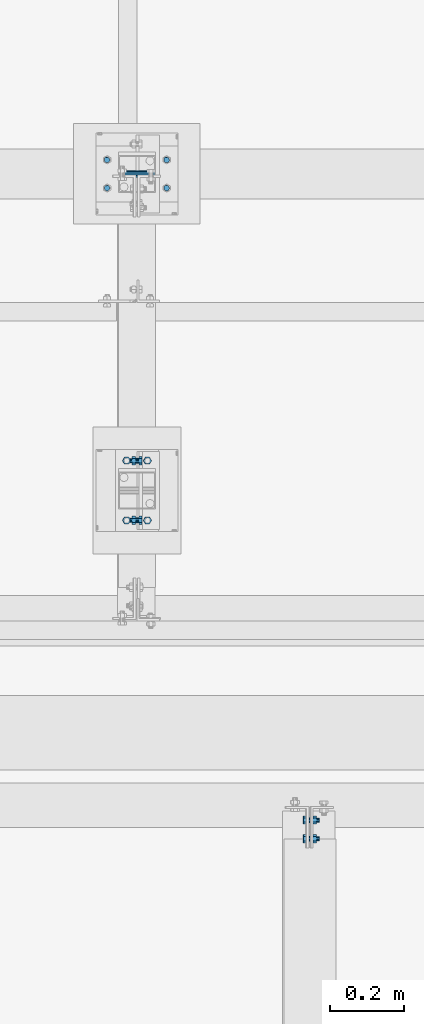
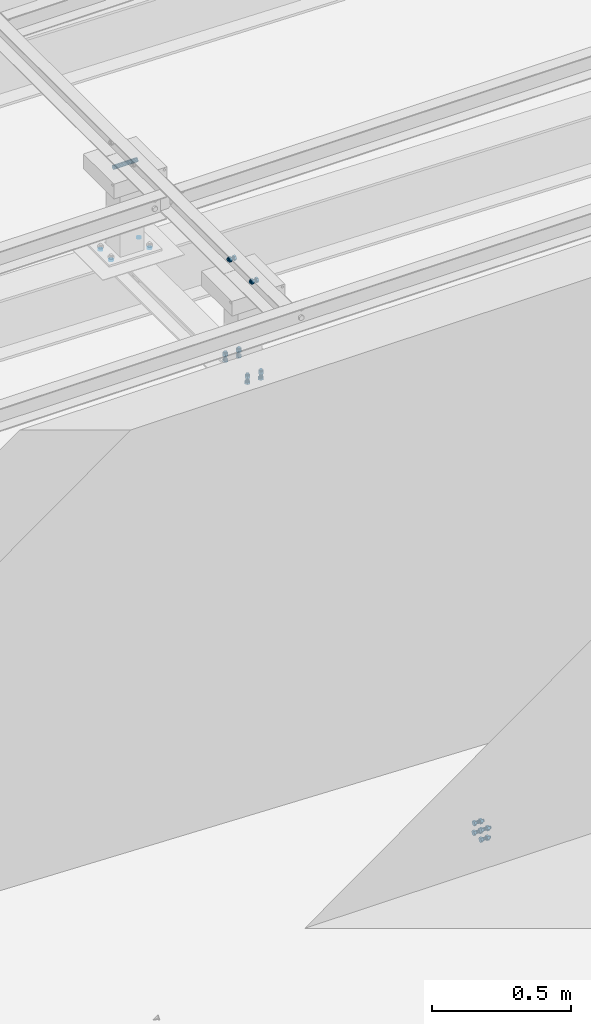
# One storey, part 391 of 3134: 5 mechanical fasteners, 5 elements without a shape of their own.
"""IFC2X3 building model written with IfcOpenShell, lengths in millimetres."""

import ifcopenshell
import ifcopenshell.guid

model = None  # the IFC model being written
_history = None  # IfcOwnerHistory: only IFC2X3 demands one
_inside = {}  # id of a spatial element -> (the spatial element, [elements in it])
_under = {}  # id of a project, library or spatial element -> (it, [spatial elements below it])
_declared = {}  # id of a project -> (the project, [libraries it declares])
_typed = {}  # id of a type object -> (the type object, [elements of that type])
_made_of = {}  # id of a material, layer set ... -> (it, [elements and type objects made of it])


def new_model(schema):
    """Start an empty IFC model of exactly this schema.

    Asked for "IFC4X3", IfcOpenShell would pick the latest addendum, in which some entities
    have other attributes; the version numbers below select the first issue.
    IFC2X3 requires an IfcOwnerHistory on every rooted entity: one is made here for all.
    """
    global model, _history
    if schema == "IFC4X3":
        model = ifcopenshell.file(schema_version=(4, 3, 0, 0))
    else:
        model = ifcopenshell.file(schema=schema)
    _inside.clear()
    _under.clear()
    _declared.clear()
    _typed.clear()
    _made_of.clear()
    _history = None
    if model.schema == "IFC2X3":
        org = make("IfcOrganization", Name="unknown")
        user = make(
            "IfcPersonAndOrganization",
            ThePerson=make("IfcPerson", FamilyName="unknown"),
            TheOrganization=org,
        )
        app = make(
            "IfcApplication",
            ApplicationDeveloper=org,
            Version="unknown",
            ApplicationFullName="unknown",
            ApplicationIdentifier="unknown",
        )
        _history = make(
            "IfcOwnerHistory",
            OwningUser=user,
            OwningApplication=app,
            ChangeAction="ADDED",
            CreationDate=0,
        )
    return model


def make(cls, **values):
    """One entity of the class cls with the attributes given. An attribute that is None is left unset."""
    return model.create_entity(
        cls, **{name: value for name, value in values.items() if value is not None}
    )


def rooted(cls, **values):
    """An entity with a GlobalId (a new one), such as an element, a storey or a relation."""
    return make(cls, GlobalId=ifcopenshell.guid.new(), OwnerHistory=_history, **values)


def si_unit(unit_type, name, prefix=None):
    """IfcSIUnit, for example si_unit("LENGTHUNIT", "METRE", prefix="MILLI")."""
    return make("IfcSIUnit", UnitType=unit_type, Prefix=prefix, Name=name)


def assignment(units):
    """IfcUnitAssignment: the units of a project."""
    return None if units is None else make("IfcUnitAssignment", Units=units)


def point(xyz):
    """IfcCartesianPoint."""
    return None if xyz is None else make("IfcCartesianPoint", Coordinates=xyz)


def direction(xyz):
    """IfcDirection."""
    return None if xyz is None else make("IfcDirection", DirectionRatios=xyz)


def frame(location, z_axis=None, x_axis=None):
    """IfcAxis2Placement3D, a coordinate frame: its origin and axes. An axis left out is left unset."""
    return make(
        "IfcAxis2Placement3D",
        Location=point(location),
        Axis=direction(z_axis),
        RefDirection=direction(x_axis),
    )


def origin_with_axes():
    """The frame at (0, 0, 0) with the z axis (0, 0, 1) and the x axis (1, 0, 0) written out."""
    return frame((0.0, 0.0, 0.0), z_axis=(0.0, 0.0, 1.0), x_axis=(1.0, 0.0, 0.0))


def place(relative_to, where):
    """IfcLocalPlacement: puts the frame where relative to a parent placement (None: the world)."""
    return make(
        "IfcLocalPlacement", PlacementRelTo=relative_to, RelativePlacement=where
    )


def context(
    kind, dimensions, precision=None, world=None, true_north=None, identifier=None
):
    """IfcGeometricRepresentationContext, for example the 3D "Model" context."""
    return make(
        "IfcGeometricRepresentationContext",
        ContextIdentifier=identifier,
        ContextType=kind,
        CoordinateSpaceDimension=dimensions,
        Precision=precision,
        WorldCoordinateSystem=world,
        TrueNorth=true_north,
    )


def subcontext(parent, identifier, kind, view, scale=None):
    """IfcGeometricRepresentationSubContext, for example "Body" below "Model"."""
    return make(
        "IfcGeometricRepresentationSubContext",
        ContextIdentifier=identifier,
        ContextType=kind,
        ParentContext=parent,
        TargetScale=scale,
        TargetView=view,
    )


def project(units=None, contexts=None):
    """IfcProject with its units and contexts."""
    return rooted(
        "IfcProject",
        Name="project",
        RepresentationContexts=contexts,
        UnitsInContext=assignment(units),
    )


def spatial(cls, under=None, at=None, **own):
    """A site, building, storey or space (cls), placed at a placement, below another one or the project."""
    s = rooted(cls, ObjectPlacement=at, **own)
    if under is not None:
        _under.setdefault(under.id(), (under, []))[1].append(s)
    return s


def faces_of(points, faces, orient=None, outer=None):
    """IfcFace entities. A face is a list of loops; a loop is a list of indices into points, from 0.

    orient and outer hold one flag for each loop. By default every Orientation is true, the
    first loop of a face is its IfcFaceOuterBound and the others are IfcFaceBound.
    """
    made = []
    for i, loops in enumerate(faces):
        bounds = []
        for j, loop in enumerate(loops):
            is_outer = j == 0 if outer is None else outer[i][j]
            bounds.append(
                make(
                    "IfcFaceOuterBound" if is_outer else "IfcFaceBound",
                    Bound=make("IfcPolyLoop", Polygon=[points[k] for k in loop]),
                    Orientation=True if orient is None else orient[i][j],
                )
            )
        made.append(make("IfcFace", Bounds=bounds))
    return made


def faceted_brep(points, faces, orient=None, outer=None, voids=None):
    """IfcFacetedBrep: a solid bounded by flat faces; with voids (closed shells), ...WithVoids."""
    shared = [point(p) for p in points]
    hull = make("IfcClosedShell", CfsFaces=faces_of(shared, faces, orient, outer))
    if voids is None:
        return make("IfcFacetedBrep", Outer=hull)
    return make(
        "IfcFacetedBrepWithVoids",
        Outer=hull,
        Voids=[
            make(cls, CfsFaces=faces_of(shared, fs, o, b)) for cls, fs, o, b in voids
        ],
    )


def shape(context_of_items, identifier, shape_type, items):
    """IfcShapeRepresentation: the items that make up one representation, for example the "Body"."""
    return make(
        "IfcShapeRepresentation",
        ContextOfItems=context_of_items,
        RepresentationIdentifier=identifier,
        RepresentationType=shape_type,
        Items=items,
    )


def source(mapping_origin, context_of_items, identifier, shape_type, items):
    """IfcRepresentationMap: a shape defined once, which mapped items show again and again."""
    return make(
        "IfcRepresentationMap",
        MappingOrigin=mapping_origin,
        MappedRepresentation=shape(context_of_items, identifier, shape_type, items),
    )


def transform(
    local_origin,
    x_axis=None,
    y_axis=None,
    z_axis=None,
    scale=None,
    scale2=None,
    scale3=None,
    uniform=True,
):
    """IfcCartesianTransformationOperator3D, or its non-uniform kind. x_axis, y_axis, z_axis: its Axis1, 2, 3."""
    if uniform:
        return make(
            "IfcCartesianTransformationOperator3D",
            Axis1=direction(x_axis),
            Axis2=direction(y_axis),
            LocalOrigin=point(local_origin),
            Scale=scale,
            Axis3=direction(z_axis),
        )
    return make(
        "IfcCartesianTransformationOperator3DnonUniform",
        Axis1=direction(x_axis),
        Axis2=direction(y_axis),
        LocalOrigin=point(local_origin),
        Scale=scale,
        Axis3=direction(z_axis),
        Scale2=scale2,
        Scale3=scale3,
    )


def mapped(mapping_source, mapping_target):
    """IfcMappedItem: shows the shape of a source again, moved by a transform."""
    return make(
        "IfcMappedItem", MappingSource=mapping_source, MappingTarget=mapping_target
    )


def material(Name=None, Category=None):
    """IfcMaterial."""
    return make("IfcMaterial", Name=Name, Category=Category)


def made_of(thing, what):
    """Note that an element or type object is made of a material, layer set ...; save() writes the relation."""
    if what is not None:
        _made_of.setdefault(what.id(), (what, []))[1].append(thing)
    return thing


def type_object(cls, material=None, **own):
    """A type object (cls), such as IfcWallType, which elements share."""
    return made_of(rooted(cls, **own), material)


def element(
    cls,
    number,
    at=None,
    inside=None,
    cuts=None,
    type_object=None,
    material=None,
    context=None,
    identifier="Body",
    shape_type=None,
    held_by="IfcProductDefinitionShape",
    body=None,
    shapes=None,
    **own,
):
    """One element of the class cls, such as IfcWall. Its Tag is "e" and its number.

    at: its placement. inside: the storey or other place that contains it. cuts: it is an
    opening in that element (IfcRelVoidsElement). A single representation is given by context,
    identifier, shape_type and body (its items); several are given by shapes. held_by: the class
    of the entity that holds the representations. save() writes the other relations.
    """
    e = rooted(cls, Tag="e%d" % number, ObjectPlacement=at, **own)
    if body is not None:
        shapes = [shape(context, identifier, shape_type, body)]
    if shapes is not None:
        e.Representation = make(held_by, Representations=shapes)
    if inside is not None:
        _inside.setdefault(inside.id(), (inside, []))[1].append(e)
    if cuts is not None:
        rooted(
            "IfcRelVoidsElement", RelatingBuildingElement=cuts, RelatedOpeningElement=e
        )
    if type_object is not None:
        _typed.setdefault(type_object.id(), (type_object, []))[1].append(e)
    return made_of(e, material)


def aggregate(whole, parts):
    """IfcRelAggregates: a whole, such as a stair, and the parts it consists of."""
    return rooted("IfcRelAggregates", RelatingObject=whole, RelatedObjects=parts)


def save(model, path):
    """Write the relations noted so far, then the file.

    IfcRelAggregates (storeys below a building ...), IfcRelContainedInSpatialStructure (elements
    in a storey), IfcRelDefinesByType, IfcRelAssociatesMaterial and IfcRelDeclares: one each for
    every whole, place, type object, material and project.
    """
    for whole, parts in _under.values():
        aggregate(whole, parts)
    for where, things in _inside.values():
        rooted(
            "IfcRelContainedInSpatialStructure",
            RelatedElements=things,
            RelatingStructure=where,
        )
    for kind, things in _typed.values():
        rooted("IfcRelDefinesByType", RelatedObjects=things, RelatingType=kind)
    for what, things in _made_of.values():
        rooted("IfcRelAssociatesMaterial", RelatedObjects=things, RelatingMaterial=what)
    for by, libraries in _declared.values():
        rooted("IfcRelDeclares", RelatingContext=by, RelatedDefinitions=libraries)
    model.write(path)


model = new_model("IFC2X3")

# Units and contexts
model_context = context("Model", 3, precision=1e-05, world=origin_with_axes())
body_context = subcontext(model_context, "Body", "Model", "MODEL_VIEW")
ifc_project = project(units=[si_unit("LENGTHUNIT", "METRE", prefix="MILLI"), si_unit("AREAUNIT", "SQUARE_METRE"), si_unit("VOLUMEUNIT", "CUBIC_METRE"), si_unit("MASSUNIT", "GRAM", prefix="KILO"), si_unit("TIMEUNIT", "SECOND"), si_unit("PLANEANGLEUNIT", "RADIAN"), si_unit("SOLIDANGLEUNIT", "STERADIAN"), si_unit("THERMODYNAMICTEMPERATUREUNIT", "DEGREE_CELSIUS"), si_unit("LUMINOUSINTENSITYUNIT", "LUMEN")], contexts=[model_context])

# Site, building, storey
site_placement = place(None, origin_with_axes())
site = spatial("IfcSite", under=ifc_project, at=site_placement, CompositionType="ELEMENT")
building_placement = place(site_placement, origin_with_axes())
building = spatial("IfcBuilding", under=site, at=building_placement, Name="Undefined", CompositionType="ELEMENT")
storey_placement = place(building_placement, origin_with_axes())
storey = spatial("IfcBuildingStorey", under=building, at=storey_placement, Name="Undefined", CompositionType="ELEMENT", Elevation=0.0)

# Assembly, mechanical fastener
assembly_1_placement = place(storey_placement, origin_with_axes())
assembly_1 = element("IfcElementAssembly", 1, at=assembly_1_placement, inside=storey, AssemblyPlace="NOTDEFINED", PredefinedType="RIGID_FRAME")
ifc_material = material(Name="8.8")
mechanical_fastener_type = type_object("IfcMechanicalFastenerType", Name="Bolt assembly")
shared_shape_1 = source(origin_with_axes(), body_context, "Body", "Brep", [
    faceted_brep([(10.9696551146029, -14.0, 0.0), (5.48482755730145, -14.0, 9.5), (-5.48482755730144, -14.0, 9.5), (-10.9696551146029, -14.0, 1.34339530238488e-15), (-5.48482755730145, -14.0, -9.5), (5.48482755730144, -14.0, -9.50000000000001), (5.48482755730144, -6.0, -9.50000000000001), (-5.48482755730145, -6.0, -9.5), (-10.9696551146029, -6.0, 1.34339530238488e-15), (-5.48482755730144, -6.0, 9.5), (5.48482755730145, -6.0, 9.5), (10.9696551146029, -6.0, 0.0), (6.0, -6.0, 0.0), (5.19615242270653, -6.0, 3.00000000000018), (2.99999999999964, -6.0, 5.19615242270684), (-6.21801588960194e-13, -6.0, 6.0), (-3.00000000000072, -6.0, 5.19615242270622), (-5.19615242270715, -6.0, 2.9999999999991), (-6.0, -6.0, -1.24360317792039e-12), (-5.19615242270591, -6.0, -3.00000000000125), (-2.99999999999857, -6.0, -5.19615242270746), (1.85874342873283e-12, -6.0, -6.0), (3.00000000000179, -6.0, -5.1961524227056), (5.19615242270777, -6.0, -2.99999999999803), (5.19615242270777, 19.0, -2.99999999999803), (3.00000000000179, 19.0, -5.1961524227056), (1.85874342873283e-12, 19.0, -6.0), (-2.99999999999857, 19.0, -5.19615242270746), (-5.19615242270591, 19.0, -3.00000000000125), (-6.0, 19.0, -1.24360317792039e-12), (-5.19615242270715, 19.0, 2.9999999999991), (-3.00000000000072, 19.0, 5.19615242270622), (-6.21801588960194e-13, 19.0, 6.0), (2.99999999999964, 19.0, 5.19615242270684), (5.19615242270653, 19.0, 3.00000000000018), (6.0, 19.0, 0.0), (10.9696551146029, 4.00000000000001, 0.0), (5.48482755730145, 4.00000000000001, 9.5), (-5.48482755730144, 4.00000000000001, 9.5), (-10.9696551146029, 4.00000000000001, 1.34339530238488e-15), (-5.48482755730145, 4.00000000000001, -9.5), (5.48482755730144, 4.00000000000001, -9.50000000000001), (5.48482755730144, 14.0, -9.50000000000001), (-5.48482755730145, 14.0, -9.5), (-10.9696551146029, 14.0, 1.34339530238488e-15), (-5.48482755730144, 14.0, 9.5), (5.48482755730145, 14.0, 9.5), (10.9696551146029, 14.0, 0.0)], [[[0, 1, 2, 3, 4, 5]], [[6, 7, 8, 9, 10, 11]], [[0, 11, 10, 1]], [[1, 10, 9, 2]], [[2, 9, 8, 3]], [[3, 8, 7, 4]], [[4, 7, 6, 5]], [[5, 6, 11, 0]], [[12, 13, 14, 15, 16, 17, 18, 19, 20, 21, 22, 23]], [[24, 25, 26, 27, 28, 29, 30, 31, 32, 33, 34, 35]], [[12, 35, 34, 13]], [[13, 34, 33, 14]], [[14, 33, 32, 15]], [[15, 32, 31, 16]], [[16, 31, 30, 17]], [[17, 30, 29, 18]], [[18, 29, 28, 19]], [[19, 28, 27, 20]], [[20, 27, 26, 21]], [[21, 26, 25, 22]], [[22, 25, 24, 23]], [[23, 24, 35, 12]], [[36, 37, 38, 39, 40, 41]], [[42, 43, 44, 45, 46, 47]], [[36, 47, 46, 37]], [[37, 46, 45, 38]], [[38, 45, 44, 39]], [[39, 44, 43, 40]], [[40, 43, 42, 41]], [[41, 42, 47, 36]]]),
    faceted_brep([(7.0, -0.1, 0.0), (6.06217782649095, -0.1, 3.50000000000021), (3.49999999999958, -0.1, 6.06217782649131), (-7.25435187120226e-13, -0.1, 7.0), (-3.50000000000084, -0.1, 6.06217782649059), (-6.06217782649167, -0.1, 3.49999999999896), (-7.0, -0.1, -1.45087037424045e-12), (-6.06217782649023, -0.1, -3.50000000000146), (-3.49999999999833, -0.1, -6.06217782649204), (2.1685340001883e-12, -0.1, -7.0), (3.50000000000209, -0.1, -6.06217782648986), (6.0621778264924, -0.1, -3.4999999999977), (6.0621778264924, 4.00000000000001, -3.4999999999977), (3.50000000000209, 4.00000000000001, -6.06217782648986), (2.1685340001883e-12, 4.00000000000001, -7.0), (-3.49999999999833, 4.00000000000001, -6.06217782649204), (-6.06217782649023, 4.00000000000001, -3.50000000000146), (-7.0, 4.00000000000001, -1.45087037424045e-12), (-6.06217782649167, 4.00000000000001, 3.49999999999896), (-3.50000000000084, 4.00000000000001, 6.06217782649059), (-7.25435187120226e-13, 4.00000000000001, 7.0), (3.49999999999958, 4.00000000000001, 6.06217782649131), (6.06217782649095, 4.00000000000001, 3.50000000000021), (7.0, 4.00000000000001, 0.0), (7.0, -5.9, 0.0), (6.06217782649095, -5.9, 3.50000000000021), (3.49999999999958, -5.9, 6.06217782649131), (-7.25435187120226e-13, -5.9, 7.0), (-3.50000000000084, -5.9, 6.06217782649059), (-6.06217782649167, -5.9, 3.49999999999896), (-7.0, -5.9, -1.45087037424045e-12), (-6.06217782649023, -5.9, -3.50000000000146), (-3.49999999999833, -5.9, -6.06217782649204), (2.1685340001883e-12, -5.9, -7.0), (3.50000000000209, -5.9, -6.06217782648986), (6.0621778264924, -5.9, -3.4999999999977), (6.0621778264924, 0.0999999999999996, -3.4999999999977), (3.50000000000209, 0.0999999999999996, -6.06217782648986), (2.1685340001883e-12, 0.0999999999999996, -7.0), (-3.49999999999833, 0.0999999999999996, -6.06217782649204), (-6.06217782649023, 0.0999999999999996, -3.50000000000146), (-7.0, 0.0999999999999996, -1.45087037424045e-12), (-6.06217782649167, 0.0999999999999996, 3.49999999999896), (-3.50000000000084, 0.0999999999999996, 6.06217782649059), (-7.25435187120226e-13, 0.0999999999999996, 7.0), (3.49999999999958, 0.0999999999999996, 6.06217782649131), (6.06217782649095, 0.0999999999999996, 3.50000000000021), (7.0, 0.0999999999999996, 0.0)], [[[0, 1, 2, 3, 4, 5, 6, 7, 8, 9, 10, 11]], [[12, 13, 14, 15, 16, 17, 18, 19, 20, 21, 22, 23]], [[0, 23, 22, 1]], [[1, 22, 21, 2]], [[2, 21, 20, 3]], [[3, 20, 19, 4]], [[4, 19, 18, 5]], [[5, 18, 17, 6]], [[6, 17, 16, 7]], [[7, 16, 15, 8]], [[8, 15, 14, 9]], [[9, 14, 13, 10]], [[10, 13, 12, 11]], [[11, 12, 23, 0]], [[24, 25, 26, 27, 28, 29, 30, 31, 32, 33, 34, 35]], [[36, 37, 38, 39, 40, 41, 42, 43, 44, 45, 46, 47]], [[24, 47, 46, 25]], [[25, 46, 45, 26]], [[26, 45, 44, 27]], [[27, 44, 43, 28]], [[28, 43, 42, 29]], [[29, 42, 41, 30]], [[30, 41, 40, 31]], [[31, 40, 39, 32]], [[32, 39, 38, 33]], [[33, 38, 37, 34]], [[34, 37, 36, 35]], [[35, 36, 47, 24]]]),
])
mechanical_fastener_1_placement = place(assembly_1_placement, frame((75358.73, 26815.0, 5885.0), z_axis=(0.0, 0.0, 1.0), x_axis=(0.0, 1.0, 0.0)))
mechanical_fastener_1 = element("IfcMechanicalFastener", 2, at=mechanical_fastener_1_placement, type_object=mechanical_fastener_type, material=ifc_material, Name="Bolt assembly", NominalDiameter=12.0, NominalLength=25.0, context=body_context, shape_type="MappedRepresentation", body=[
    mapped(shared_shape_1, transform((0.0, 0.0, 0.0))),
    mapped(shared_shape_1, transform((160.0, 0.0, 0.0))),
])
aggregate(assembly_1, [mechanical_fastener_1])

assembly_2_placement = place(storey_placement, origin_with_axes())
assembly_2 = element("IfcElementAssembly", 3, at=assembly_2_placement, inside=storey, AssemblyPlace="NOTDEFINED", PredefinedType="RIGID_FRAME")
shared_shape_2 = source(origin_with_axes(), body_context, "Body", "Brep", [
    faceted_brep([(7.0, 13.0000253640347, 0.0), (6.06217782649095, 13.0000253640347, 3.50000000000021), (3.49999999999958, 13.0000253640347, 6.06217782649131), (-7.25435187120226e-13, 13.0000253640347, 7.0), (-3.50000000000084, 13.0000253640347, 6.06217782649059), (-6.06217782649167, 13.0000253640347, 3.49999999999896), (-7.0, 13.0000253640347, -1.45087037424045e-12), (-6.06217782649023, 13.0000253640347, -3.50000000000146), (-3.49999999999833, 13.0000253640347, -6.06217782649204), (2.1685340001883e-12, 13.0000253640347, -7.0), (3.50000000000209, 13.0000253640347, -6.06217782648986), (6.0621778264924, 13.0000253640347, -3.4999999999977), (6.0621778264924, 15.0999999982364, -3.4999999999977), (3.50000000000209, 15.0999999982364, -6.06217782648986), (2.1685340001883e-12, 15.0999999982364, -7.0), (-3.49999999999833, 15.0999999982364, -6.06217782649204), (-6.06217782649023, 15.0999999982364, -3.50000000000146), (-7.0, 15.0999999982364, -1.45087037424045e-12), (-6.06217782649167, 15.0999999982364, 3.49999999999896), (-3.50000000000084, 15.0999999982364, 6.06217782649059), (-7.25435187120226e-13, 15.0999999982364, 7.0), (3.49999999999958, 15.0999999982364, 6.06217782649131), (6.06217782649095, 15.0999999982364, 3.50000000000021), (7.0, 15.0999999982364, 0.0)], [[[0, 1, 2, 3, 4, 5, 6, 7, 8, 9, 10, 11]], [[12, 13, 14, 15, 16, 17, 18, 19, 20, 21, 22, 23]], [[0, 23, 22, 1]], [[1, 22, 21, 2]], [[2, 21, 20, 3]], [[3, 20, 19, 4]], [[4, 19, 18, 5]], [[5, 18, 17, 6]], [[6, 17, 16, 7]], [[7, 16, 15, 8]], [[8, 15, 14, 9]], [[9, 14, 13, 10]], [[10, 13, 12, 11]], [[11, 12, 23, 0]]]),
])
mechanical_fastener_2_placement = place(assembly_2_placement, frame((75358.2680906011, 27783.0, 5446.97064104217), z_axis=(-0.999799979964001, 0.0, 0.0200000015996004), x_axis=(0.0, -1.0, 0.0)))
mechanical_fastener_2 = element("IfcMechanicalFastener", 4, at=mechanical_fastener_2_placement, type_object=mechanical_fastener_type, material=ifc_material, Name="Bolt assembly", NominalDiameter=12.0, NominalLength=2.0, context=body_context, shape_type="MappedRepresentation", body=[
    mapped(shared_shape_2, transform((0.0, -5.32963895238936e-10, -79.9999999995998))),
    mapped(shared_shape_2, transform((76.0, -5.32963895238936e-10, -79.9999999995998))),
    mapped(shared_shape_2, transform((0.0, 5.3114490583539e-10, 79.9999999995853))),
    mapped(shared_shape_2, transform((76.0, 5.3114490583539e-10, 79.9999999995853))),
])
aggregate(assembly_2, [mechanical_fastener_2])

assembly_3_placement = place(storey_placement, origin_with_axes())
assembly_3 = element("IfcElementAssembly", 5, at=assembly_3_placement, inside=storey, AssemblyPlace="NOTDEFINED", PredefinedType="RIGID_FRAME")
shared_shape_3 = source(origin_with_axes(), body_context, "Body", "Brep", [
    faceted_brep([(9.0, -50.0, 0.0), (7.79422863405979, -50.0, 4.50000000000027), (4.49999999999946, -50.0, 7.79422863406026), (-9.3270238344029e-13, -50.0, 9.0), (-4.50000000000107, -50.0, 7.79422863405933), (-7.79422863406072, -50.0, 4.49999999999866), (-9.0, -50.0, -1.86540476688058e-12), (-7.79422863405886, -50.0, -4.50000000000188), (-4.49999999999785, -50.0, -7.79422863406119), (2.78811514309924e-12, -50.0, -9.0), (4.50000000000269, -50.0, -7.7942286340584), (7.79422863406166, -50.0, -4.49999999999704), (7.79422863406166, 50.1, -4.49999999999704), (4.50000000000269, 50.1, -7.7942286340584), (2.78811514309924e-12, 50.1, -9.0), (-4.49999999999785, 50.1, -7.79422863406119), (-7.79422863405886, 50.1, -4.50000000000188), (-9.0, 50.1, -1.86540476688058e-12), (-7.79422863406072, 50.1, 4.49999999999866), (-4.50000000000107, 50.1, 7.79422863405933), (-9.3270238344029e-13, 50.1, 9.0), (4.49999999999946, 50.1, 7.79422863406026), (7.79422863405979, 50.1, 4.50000000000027), (9.0, 50.1, 0.0)], [[[0, 1, 2, 3, 4, 5, 6, 7, 8, 9, 10, 11]], [[12, 13, 14, 15, 16, 17, 18, 19, 20, 21, 22, 23]], [[0, 23, 22, 1]], [[1, 22, 21, 2]], [[2, 21, 20, 3]], [[3, 20, 19, 4]], [[4, 19, 18, 5]], [[5, 18, 17, 6]], [[6, 17, 16, 7]], [[7, 16, 15, 8]], [[8, 15, 14, 9]], [[9, 14, 13, 10]], [[10, 13, 12, 11]], [[11, 12, 23, 0]]]),
])
mechanical_fastener_3_placement = place(assembly_3_placement, frame((75358.73, 27745.0, 5836.0), z_axis=(0.0, 1.0, 0.0), x_axis=(0.0, 0.0, 1.0)))
mechanical_fastener_3 = element("IfcMechanicalFastener", 6, at=mechanical_fastener_3_placement, type_object=mechanical_fastener_type, material=ifc_material, Name="Bolt assembly", NominalDiameter=16.0, NominalLength=100.0, context=body_context, shape_type="MappedRepresentation", body=[
    mapped(shared_shape_3, transform((0.0, 0.0, 0.0))),
])
aggregate(assembly_3, [mechanical_fastener_3])

assembly_4_placement = place(storey_placement, origin_with_axes())
assembly_4 = element("IfcElementAssembly", 7, at=assembly_4_placement, inside=storey, AssemblyPlace="NOTDEFINED", PredefinedType="RIGID_FRAME")
shared_shape_4 = source(origin_with_axes(), body_context, "Body", "Brep", [
    faceted_brep([(10.9696551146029, -19.2575524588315, 0.0), (5.48482755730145, -19.2575524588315, 9.5), (-5.48482755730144, -19.2575524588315, 9.5), (-10.9696551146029, -19.2575524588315, 1.34339530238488e-15), (-5.48482755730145, -19.2575524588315, -9.5), (5.48482755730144, -19.2575524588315, -9.50000000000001), (5.48482755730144, -11.2575524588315, -9.50000000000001), (-5.48482755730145, -11.2575524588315, -9.5), (-10.9696551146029, -11.2575524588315, 1.34339530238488e-15), (-5.48482755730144, -11.2575524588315, 9.5), (5.48482755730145, -11.2575524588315, 9.5), (10.9696551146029, -11.2575524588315, 0.0), (6.0, -11.2575524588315, 0.0), (5.19615242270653, -11.2575524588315, 3.00000000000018), (2.99999999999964, -11.2575524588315, 5.19615242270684), (-6.21801588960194e-13, -11.2575524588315, 6.0), (-3.00000000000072, -11.2575524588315, 5.19615242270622), (-5.19615242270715, -11.2575524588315, 2.9999999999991), (-6.0, -11.2575524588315, -1.24360317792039e-12), (-5.19615242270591, -11.2575524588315, -3.00000000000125), (-2.99999999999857, -11.2575524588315, -5.19615242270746), (1.85874342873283e-12, -11.2575524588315, -6.0), (3.00000000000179, -11.2575524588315, -5.1961524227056), (5.19615242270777, -11.2575524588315, -2.99999999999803), (5.19615242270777, 23.7424475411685, -2.99999999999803), (3.00000000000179, 23.7424475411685, -5.1961524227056), (1.85874342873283e-12, 23.7424475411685, -6.0), (-2.99999999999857, 23.7424475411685, -5.19615242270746), (-5.19615242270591, 23.7424475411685, -3.00000000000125), (-6.0, 23.7424475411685, -1.24360317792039e-12), (-5.19615242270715, 23.7424475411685, 2.9999999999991), (-3.00000000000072, 23.7424475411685, 5.19615242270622), (-6.21801588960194e-13, 23.7424475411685, 6.0), (2.99999999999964, 23.7424475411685, 5.19615242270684), (5.19615242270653, 23.7424475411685, 3.00000000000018), (6.0, 23.7424475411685, 0.0), (10.9696551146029, 6.25018760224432, 0.0), (5.48482755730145, 6.25018760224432, 9.5), (-5.48482755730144, 6.25018760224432, 9.5), (-10.9696551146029, 6.25018760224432, 1.34339530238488e-15), (-5.48482755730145, 6.25018760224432, -9.5), (5.48482755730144, 6.25018760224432, -9.50000000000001), (5.48482755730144, 16.2501876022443, -9.50000000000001), (-5.48482755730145, 16.2501876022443, -9.5), (-10.9696551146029, 16.2501876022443, 1.34339530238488e-15), (-5.48482755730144, 16.2501876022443, 9.5), (5.48482755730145, 16.2501876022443, 9.5), (10.9696551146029, 16.2501876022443, 0.0)], [[[0, 1, 2, 3, 4, 5]], [[6, 7, 8, 9, 10, 11]], [[0, 11, 10, 1]], [[1, 10, 9, 2]], [[2, 9, 8, 3]], [[3, 8, 7, 4]], [[4, 7, 6, 5]], [[5, 6, 11, 0]], [[12, 13, 14, 15, 16, 17, 18, 19, 20, 21, 22, 23]], [[24, 25, 26, 27, 28, 29, 30, 31, 32, 33, 34, 35]], [[12, 35, 34, 13]], [[13, 34, 33, 14]], [[14, 33, 32, 15]], [[15, 32, 31, 16]], [[16, 31, 30, 17]], [[17, 30, 29, 18]], [[18, 29, 28, 19]], [[19, 28, 27, 20]], [[20, 27, 26, 21]], [[21, 26, 25, 22]], [[22, 25, 24, 23]], [[23, 24, 35, 12]], [[36, 37, 38, 39, 40, 41]], [[42, 43, 44, 45, 46, 47]], [[36, 47, 46, 37]], [[37, 46, 45, 38]], [[38, 45, 44, 39]], [[39, 44, 43, 40]], [[40, 43, 42, 41]], [[41, 42, 47, 36]]]),
    faceted_brep([(7.0, -11.1575524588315, 0.0), (6.06217782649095, -11.1575524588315, 3.50000000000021), (3.49999999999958, -11.1575524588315, 6.06217782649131), (-7.25435187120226e-13, -11.1575524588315, 7.0), (-3.50000000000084, -11.1575524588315, 6.06217782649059), (-6.06217782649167, -11.1575524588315, 3.49999999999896), (-7.0, -11.1575524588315, -1.45087037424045e-12), (-6.06217782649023, -11.1575524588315, -3.50000000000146), (-3.49999999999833, -11.1575524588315, -6.06217782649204), (2.1685340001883e-12, -11.1575524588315, -7.0), (3.50000000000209, -11.1575524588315, -6.06217782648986), (6.0621778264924, -11.1575524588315, -3.4999999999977), (6.0621778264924, -5.15755245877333, -3.4999999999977), (3.50000000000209, -5.15755245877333, -6.06217782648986), (2.1685340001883e-12, -5.15755245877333, -7.0), (-3.49999999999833, -5.15755245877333, -6.06217782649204), (-6.06217782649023, -5.15755245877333, -3.50000000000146), (-7.0, -5.15755245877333, -1.45087037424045e-12), (-6.06217782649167, -5.15755245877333, 3.49999999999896), (-3.50000000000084, -5.15755245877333, 6.06217782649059), (-7.25435187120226e-13, -5.15755245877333, 7.0), (3.49999999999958, -5.15755245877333, 6.06217782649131), (6.06217782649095, -5.15755245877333, 3.50000000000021), (7.0, -5.15755245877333, 0.0), (7.0, 0.150187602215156, 0.0), (6.06217782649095, 0.150187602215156, 3.50000000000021), (3.49999999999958, 0.150187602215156, 6.06217782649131), (-7.25435187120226e-13, 0.150187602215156, 7.0), (-3.50000000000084, 0.150187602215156, 6.06217782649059), (-6.06217782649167, 0.150187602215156, 3.49999999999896), (-7.0, 0.150187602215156, -1.45087037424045e-12), (-6.06217782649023, 0.150187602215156, -3.50000000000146), (-3.49999999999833, 0.150187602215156, -6.06217782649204), (2.1685340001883e-12, 0.150187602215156, -7.0), (3.50000000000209, 0.150187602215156, -6.06217782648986), (6.0621778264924, 0.150187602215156, -3.4999999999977), (6.0621778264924, 6.25018760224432, -3.4999999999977), (3.50000000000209, 6.25018760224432, -6.06217782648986), (2.1685340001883e-12, 6.25018760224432, -7.0), (-3.49999999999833, 6.25018760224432, -6.06217782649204), (-6.06217782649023, 6.25018760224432, -3.50000000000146), (-7.0, 6.25018760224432, -1.45087037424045e-12), (-6.06217782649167, 6.25018760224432, 3.49999999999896), (-3.50000000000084, 6.25018760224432, 6.06217782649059), (-7.25435187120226e-13, 6.25018760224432, 7.0), (3.49999999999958, 6.25018760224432, 6.06217782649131), (6.06217782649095, 6.25018760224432, 3.50000000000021), (7.0, 6.25018760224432, 0.0), (7.0, -5.2523749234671, 0.0), (6.06217782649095, -5.2523749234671, 3.50000000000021), (3.49999999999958, -5.2523749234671, 6.06217782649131), (-7.25435187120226e-13, -5.2523749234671, 7.0), (-3.50000000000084, -5.2523749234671, 6.06217782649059), (-6.06217782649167, -5.2523749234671, 3.49999999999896), (-7.0, -5.2523749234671, -1.45087037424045e-12), (-6.06217782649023, -5.2523749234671, -3.50000000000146), (-3.49999999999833, -5.2523749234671, -6.06217782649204), (2.1685340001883e-12, -5.2523749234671, -7.0), (3.50000000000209, -5.2523749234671, -6.06217782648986), (6.0621778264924, -5.2523749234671, -3.4999999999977), (6.0621778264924, 0.247625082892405, -3.4999999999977), (3.50000000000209, 0.247625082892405, -6.06217782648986), (2.1685340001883e-12, 0.247625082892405, -7.0), (-3.49999999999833, 0.247625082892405, -6.06217782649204), (-6.06217782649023, 0.247625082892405, -3.50000000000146), (-7.0, 0.247625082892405, -1.45087037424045e-12), (-6.06217782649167, 0.247625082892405, 3.49999999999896), (-3.50000000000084, 0.247625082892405, 6.06217782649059), (-7.25435187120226e-13, 0.247625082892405, 7.0), (3.49999999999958, 0.247625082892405, 6.06217782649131), (6.06217782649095, 0.247625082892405, 3.50000000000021), (7.0, 0.247625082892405, 0.0)], [[[0, 1, 2, 3, 4, 5, 6, 7, 8, 9, 10, 11]], [[12, 13, 14, 15, 16, 17, 18, 19, 20, 21, 22, 23]], [[0, 23, 22, 1]], [[1, 22, 21, 2]], [[2, 21, 20, 3]], [[3, 20, 19, 4]], [[4, 19, 18, 5]], [[5, 18, 17, 6]], [[6, 17, 16, 7]], [[7, 16, 15, 8]], [[8, 15, 14, 9]], [[9, 14, 13, 10]], [[10, 13, 12, 11]], [[11, 12, 23, 0]], [[24, 25, 26, 27, 28, 29, 30, 31, 32, 33, 34, 35]], [[36, 37, 38, 39, 40, 41, 42, 43, 44, 45, 46, 47]], [[24, 47, 46, 25]], [[25, 46, 45, 26]], [[26, 45, 44, 27]], [[27, 44, 43, 28]], [[28, 43, 42, 29]], [[29, 42, 41, 30]], [[30, 41, 40, 31]], [[31, 40, 39, 32]], [[32, 39, 38, 33]], [[33, 38, 37, 34]], [[34, 37, 36, 35]], [[35, 36, 47, 24]], [[48, 49, 50, 51, 52, 53, 54, 55, 56, 57, 58, 59]], [[60, 61, 62, 63, 64, 65, 66, 67, 68, 69, 70, 71]], [[48, 71, 70, 49]], [[49, 70, 69, 50]], [[50, 69, 68, 51]], [[51, 68, 67, 52]], [[52, 67, 66, 53]], [[53, 66, 65, 54]], [[54, 65, 64, 55]], [[55, 64, 63, 56]], [[56, 63, 62, 57]], [[57, 62, 61, 58]], [[58, 61, 60, 59]], [[59, 60, 71, 48]]]),
])
mechanical_fastener_4_placement = place(assembly_4_placement, frame((75824.0676006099, 26010.0, 3809.24004725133), z_axis=(0.0309396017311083, 0.0, 0.999521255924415), x_axis=(0.0, -1.0, 0.0)))
mechanical_fastener_4 = element("IfcMechanicalFastener", 8, at=mechanical_fastener_4_placement, type_object=mechanical_fastener_type, material=ifc_material, Name="Bolt assembly", NominalDiameter=12.0, NominalLength=35.0, context=body_context, shape_type="MappedRepresentation", body=[
    mapped(shared_shape_4, transform((0.0, 0.0, -21.0))),
    mapped(shared_shape_4, transform((50.0, -1.01863406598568e-10, -20.9999999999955))),
    mapped(shared_shape_4, transform((0.0, 0.0, 21.0))),
    mapped(shared_shape_4, transform((50.0, 1.30967237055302e-10, 20.9999999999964))),
])
aggregate(assembly_4, [mechanical_fastener_4])

assembly_5_placement = place(storey_placement, origin_with_axes())
assembly_5 = element("IfcElementAssembly", 9, at=assembly_5_placement, inside=storey, Name="HEA100", AssemblyPlace="NOTDEFINED", PredefinedType="RIGID_FRAME")
shared_shape_5 = source(origin_with_axes(), body_context, "Body", "Brep", [
    faceted_brep([(10.9696551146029, 0.00795471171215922, 0.0), (5.48482755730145, 0.00795471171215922, 9.5), (-5.48482755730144, 0.00795471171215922, 9.5), (-10.9696551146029, 0.00795471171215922, 1.34339530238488e-15), (-5.48482755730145, 0.00795471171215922, -9.5), (5.48482755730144, 0.00795471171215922, -9.50000000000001), (5.48482755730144, 8.00795471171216, -9.50000000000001), (-5.48482755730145, 8.00795471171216, -9.5), (-10.9696551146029, 8.00795471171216, 1.34339530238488e-15), (-5.48482755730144, 8.00795471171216, 9.5), (5.48482755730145, 8.00795471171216, 9.5), (10.9696551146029, 8.00795471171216, 0.0), (6.0, 8.00795471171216, 0.0), (5.19615242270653, 8.00795471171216, 3.00000000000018), (2.99999999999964, 8.00795471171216, 5.19615242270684), (-6.21801588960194e-13, 8.00795471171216, 6.0), (-3.00000000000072, 8.00795471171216, 5.19615242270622), (-5.19615242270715, 8.00795471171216, 2.9999999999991), (-6.0, 8.00795471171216, -1.24360317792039e-12), (-5.19615242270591, 8.00795471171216, -3.00000000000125), (-2.99999999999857, 8.00795471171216, -5.19615242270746), (1.85874342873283e-12, 8.00795471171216, -6.0), (3.00000000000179, 8.00795471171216, -5.1961524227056), (5.19615242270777, 8.00795471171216, -2.99999999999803), (5.19615242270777, 43.0079547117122, -2.99999999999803), (3.00000000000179, 43.0079547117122, -5.1961524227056), (1.85874342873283e-12, 43.0079547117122, -6.0), (-2.99999999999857, 43.0079547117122, -5.19615242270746), (-5.19615242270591, 43.0079547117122, -3.00000000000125), (-6.0, 43.0079547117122, -1.24360317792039e-12), (-5.19615242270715, 43.0079547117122, 2.9999999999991), (-3.00000000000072, 43.0079547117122, 5.19615242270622), (-6.21801588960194e-13, 43.0079547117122, 6.0), (2.99999999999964, 43.0079547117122, 5.19615242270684), (5.19615242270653, 43.0079547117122, 3.00000000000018), (6.0, 43.0079547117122, 0.0), (10.9696551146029, 26.0249922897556, 0.0), (5.48482755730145, 26.0249922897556, 9.5), (-5.48482755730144, 26.0249922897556, 9.5), (-10.9696551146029, 26.0249922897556, 1.34339530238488e-15), (-5.48482755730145, 26.0249922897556, -9.5), (5.48482755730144, 26.0249922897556, -9.50000000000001), (5.48482755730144, 36.0249922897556, -9.50000000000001), (-5.48482755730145, 36.0249922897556, -9.5), (-10.9696551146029, 36.0249922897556, 1.34339530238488e-15), (-5.48482755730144, 36.0249922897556, 9.5), (5.48482755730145, 36.0249922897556, 9.5), (10.9696551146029, 36.0249922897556, 0.0)], [[[0, 1, 2, 3, 4, 5]], [[6, 7, 8, 9, 10, 11]], [[0, 11, 10, 1]], [[1, 10, 9, 2]], [[2, 9, 8, 3]], [[3, 8, 7, 4]], [[4, 7, 6, 5]], [[5, 6, 11, 0]], [[12, 13, 14, 15, 16, 17, 18, 19, 20, 21, 22, 23]], [[24, 25, 26, 27, 28, 29, 30, 31, 32, 33, 34, 35]], [[12, 35, 34, 13]], [[13, 34, 33, 14]], [[14, 33, 32, 15]], [[15, 32, 31, 16]], [[16, 31, 30, 17]], [[17, 30, 29, 18]], [[18, 29, 28, 19]], [[19, 28, 27, 20]], [[20, 27, 26, 21]], [[21, 26, 25, 22]], [[22, 25, 24, 23]], [[23, 24, 35, 12]], [[36, 37, 38, 39, 40, 41]], [[42, 43, 44, 45, 46, 47]], [[36, 47, 46, 37]], [[37, 46, 45, 38]], [[38, 45, 44, 39]], [[39, 44, 43, 40]], [[40, 43, 42, 41]], [[41, 42, 47, 36]]]),
    faceted_brep([(7.0, 17.9249922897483, 0.0), (6.06217782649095, 17.9249922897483, 3.50000000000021), (3.49999999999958, 17.9249922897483, 6.06217782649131), (-7.25435187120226e-13, 17.9249922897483, 7.0), (-3.50000000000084, 17.9249922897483, 6.06217782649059), (-6.06217782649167, 17.9249922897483, 3.49999999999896), (-7.0, 17.9249922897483, -1.45087037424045e-12), (-6.06217782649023, 17.9249922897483, -3.50000000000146), (-3.49999999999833, 17.9249922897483, -6.06217782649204), (2.1685340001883e-12, 17.9249922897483, -7.0), (3.50000000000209, 17.9249922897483, -6.06217782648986), (6.0621778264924, 17.9249922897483, -3.4999999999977), (6.0621778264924, 26.0249922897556, -3.4999999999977), (3.50000000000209, 26.0249922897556, -6.06217782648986), (2.1685340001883e-12, 26.0249922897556, -7.0), (-3.49999999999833, 26.0249922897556, -6.06217782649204), (-6.06217782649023, 26.0249922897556, -3.50000000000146), (-7.0, 26.0249922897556, -1.45087037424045e-12), (-6.06217782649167, 26.0249922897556, 3.49999999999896), (-3.50000000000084, 26.0249922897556, 6.06217782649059), (-7.25435187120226e-13, 26.0249922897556, 7.0), (3.49999999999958, 26.0249922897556, 6.06217782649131), (6.06217782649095, 26.0249922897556, 3.50000000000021), (7.0, 26.0249922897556, 0.0), (7.0, 8.10795471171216, 0.0), (6.06217782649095, 8.10795471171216, 3.50000000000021), (3.49999999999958, 8.10795471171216, 6.06217782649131), (-7.25435187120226e-13, 8.10795471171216, 7.0), (-3.50000000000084, 8.10795471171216, 6.06217782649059), (-6.06217782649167, 8.10795471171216, 3.49999999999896), (-7.0, 8.10795471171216, -1.45087037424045e-12), (-6.06217782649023, 8.10795471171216, -3.50000000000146), (-3.49999999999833, 8.10795471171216, -6.06217782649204), (2.1685340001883e-12, 8.10795471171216, -7.0), (3.50000000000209, 8.10795471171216, -6.06217782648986), (6.0621778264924, 8.10795471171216, -3.4999999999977), (6.0621778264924, 16.1079390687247, -3.4999999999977), (3.50000000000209, 16.1079390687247, -6.06217782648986), (2.1685340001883e-12, 16.1079390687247, -7.0), (-3.49999999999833, 16.1079390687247, -6.06217782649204), (-6.06217782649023, 16.1079390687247, -3.50000000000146), (-7.0, 16.1079390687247, -1.45087037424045e-12), (-6.06217782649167, 16.1079390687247, 3.49999999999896), (-3.50000000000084, 16.1079390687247, 6.06217782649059), (-7.25435187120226e-13, 16.1079390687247, 7.0), (3.49999999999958, 16.1079390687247, 6.06217782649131), (6.06217782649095, 16.1079390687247, 3.50000000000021), (7.0, 16.1079390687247, 0.0)], [[[0, 1, 2, 3, 4, 5, 6, 7, 8, 9, 10, 11]], [[12, 13, 14, 15, 16, 17, 18, 19, 20, 21, 22, 23]], [[0, 23, 22, 1]], [[1, 22, 21, 2]], [[2, 21, 20, 3]], [[3, 20, 19, 4]], [[4, 19, 18, 5]], [[5, 18, 17, 6]], [[6, 17, 16, 7]], [[7, 16, 15, 8]], [[8, 15, 14, 9]], [[9, 14, 13, 10]], [[10, 13, 12, 11]], [[11, 12, 23, 0]], [[24, 25, 26, 27, 28, 29, 30, 31, 32, 33, 34, 35]], [[36, 37, 38, 39, 40, 41, 42, 43, 44, 45, 46, 47]], [[24, 47, 46, 25]], [[25, 46, 45, 26]], [[26, 45, 44, 27]], [[27, 44, 43, 28]], [[28, 43, 42, 29]], [[29, 42, 41, 30]], [[30, 41, 40, 31]], [[31, 40, 39, 32]], [[32, 39, 38, 33]], [[33, 38, 37, 34]], [[34, 37, 36, 35]], [[35, 36, 47, 24]]]),
])
mechanical_fastener_5_placement = place(assembly_5_placement, frame((75330.217320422, 26894.9983647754, 5444.520071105), z_axis=(0.0, -1.0, 0.0), x_axis=(0.999799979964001, 0.0, -0.0200000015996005)))
mechanical_fastener_5 = element("IfcMechanicalFastener", 10, at=mechanical_fastener_5_placement, type_object=mechanical_fastener_type, material=ifc_material, Name="Bolt assembly", NominalDiameter=12.0, NominalLength=35.0, context=body_context, shape_type="MappedRepresentation", body=[
    mapped(shared_shape_5, transform((0.0, -5.32963895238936e-10, -79.9999999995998))),
    mapped(shared_shape_5, transform((55.9999999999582, 4.54747350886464e-13, -80.0))),
    mapped(shared_shape_5, transform((0.0, 5.3114490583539e-10, 79.9999999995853))),
    mapped(shared_shape_5, transform((55.9999999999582, 4.54747350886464e-13, 80.0))),
])
aggregate(assembly_5, [mechanical_fastener_5])

save(model, "model.ifc")
